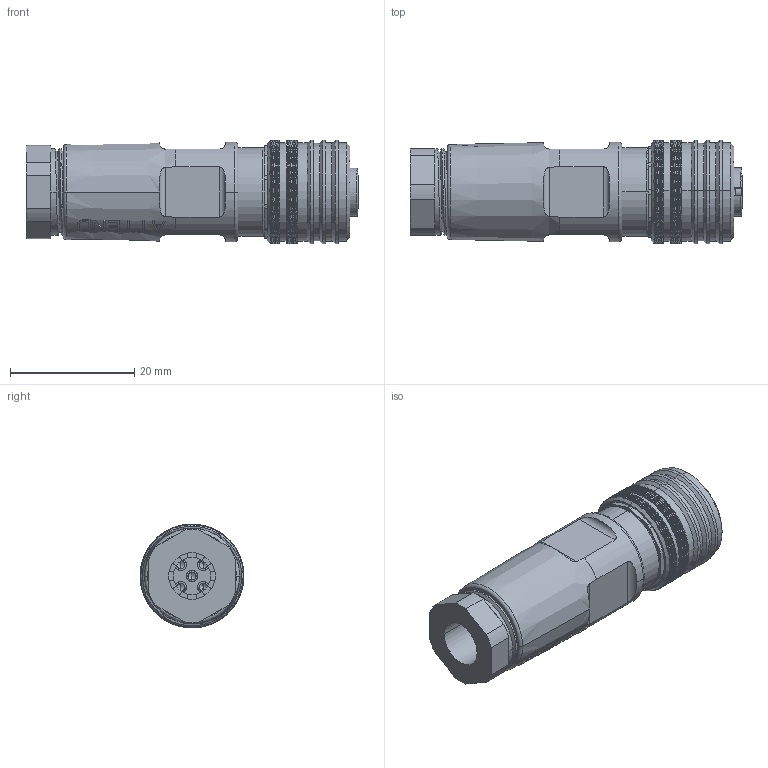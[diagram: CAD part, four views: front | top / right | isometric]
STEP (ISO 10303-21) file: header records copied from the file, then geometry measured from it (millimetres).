
FILE_DESCRIPTION((''),'2;1');
FILE_NAME('3D_DRAWING_ASM_ASM','2025-12-24T',('fros.liao'),(''),'CREO PARAMETRIC BY PTC INC, 2018360','CREO PARAMETRIC BY PTC INC, 2018360','');
FILE_SCHEMA(('AUTOMOTIVE_DESIGN { 1 0 10303 214 1 1 1 1 }'));
Products named in the file (22): SHIELD_NUT_17_1_1_1; PLASTIC_STRAPS_14_1_1_1; RUBBER_STRAPS_14_1_1_1; BACK_PLUG_15_1_1_1; BODY_11_1_1_1; ORING_PUSHPULL_6_1_1_1; THREAD_SLEEVE_ASM_23_ASM_1_ASM__ASM; MSBR-12_1_1_1; MSBR-11_1_1_2_1; MSBR-10_1_1_2_1; MSBR-9_1_1_2_1; MSBR-8_1_1_2_1; MSBR-7_1_1_2_1; MSBR-5_1_1_2_1; MSBR-4_1_1_2_1; MSBR-3_1_1_2_1; MSBR-2_1_1_2_1; MSBR-1_1_1_2_1; 216A-05F01_ASM_1_ASM_1_ASM; 216A-05F01_C_1_ASM_1_ASM; 3D_DRAWING_ASM_3_ASM; 3D_DRAWING_ASM_ASM
Assembly tree (21 placements, depth 5):
  3D_DRAWING_ASM_ASM
    3D_DRAWING_ASM_3_ASM
      THREAD_SLEEVE_ASM_23_ASM_1_ASM__ASM
        SHIELD_NUT_17_1_1_1
        PLASTIC_STRAPS_14_1_1_1
        RUBBER_STRAPS_14_1_1_1
        BACK_PLUG_15_1_1_1
        BODY_11_1_1_1
        ORING_PUSHPULL_6_1_1_1
      216A-05F01_C_1_ASM_1_ASM
        216A-05F01_ASM_1_ASM_1_ASM
          MSBR-12_1_1_1
          MSBR-11_1_1_2_1
          MSBR-10_1_1_2_1
          MSBR-9_1_1_2_1
          MSBR-8_1_1_2_1
          MSBR-7_1_1_2_1
          MSBR-5_1_1_2_1
          MSBR-4_1_1_2_1
          MSBR-3_1_1_2_1
          MSBR-2_1_1_2_1
          MSBR-1_1_1_2_1
Bounding box: 53.5 x 16.7 x 16.7 mm (x, y, z)
Volume: 7240.7 mm3; surface area: 12258.2 mm2
Topology: 17 solids, 17 shells, 2856 faces, 6849 edges, 4055 vertices
Faces by surface type: bspline 1554, cylinder 748, plane 390, cone 138, torus 26
Entity records: 150505 total; most frequent: CARTESIAN_POINT 71986, ORIENTED_EDGE 13658, DIRECTION 7256, PRESENTATION_STYLE_ASSIGNMENT 7127, STYLED_ITEM 6846, CURVE_STYLE 6829, EDGE_CURVE 6829, VERTEX_POINT 4055
